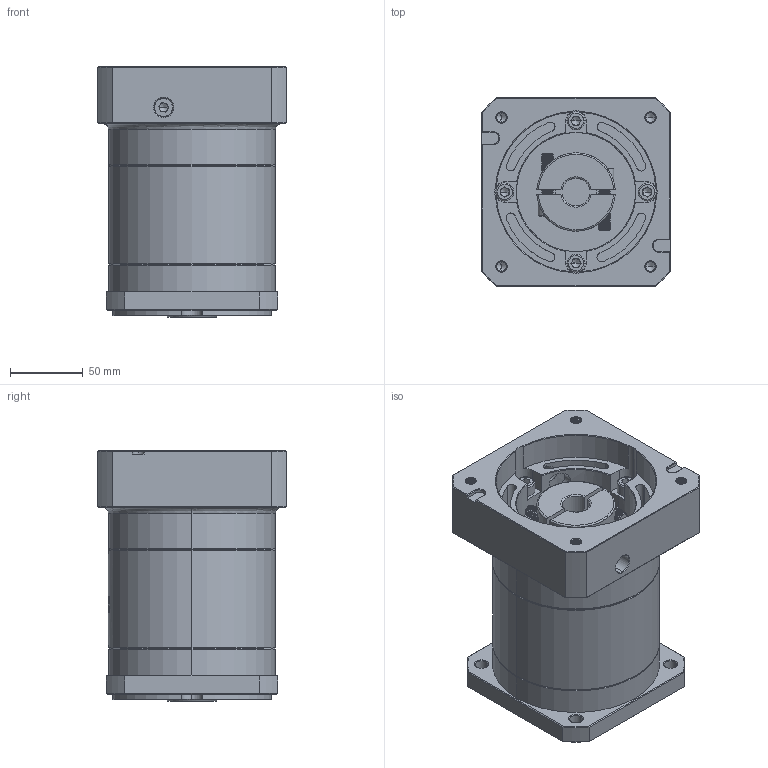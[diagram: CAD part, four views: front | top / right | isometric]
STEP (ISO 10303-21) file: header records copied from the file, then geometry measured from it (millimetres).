
FILE_DESCRIPTION (( 'STEP AP214' ), '1' );
FILE_NAME ('ZF120A-K25-L2-P2-19-110-145-M8.step', '2023-08-27T04:50:39', ( '' ), ( '' ), 'SwSTEP 2.0', 'SolidWorks 2016', '' );
FILE_SCHEMA (( 'AUTOMOTIVE_DESIGN' ));
Length unit declared in the file: millimetre
Products named in the file (1): ZF120A-K25-L2-P2-19-110-145-M8
Bounding box: 130 x 130 x 172.5 mm (x, y, z)
Volume: 1706128.6 mm3; surface area: 190807.1 mm2
Topology: 6 solids, 6 shells, 2220 faces, 5935 edges, 3814 vertices
Faces by surface type: plane 1053, cylinder 416, bspline 412, cone 320, torus 19
Entity records: 120894 total; most frequent: CARTESIAN_POINT 46283, ORIENTED_EDGE 11814, DIRECTION 8627, EDGE_CURVE 5907, VERTEX_POINT 3814, VECTOR 3119, LINE 3119, AXIS2_PLACEMENT_3D 2754
